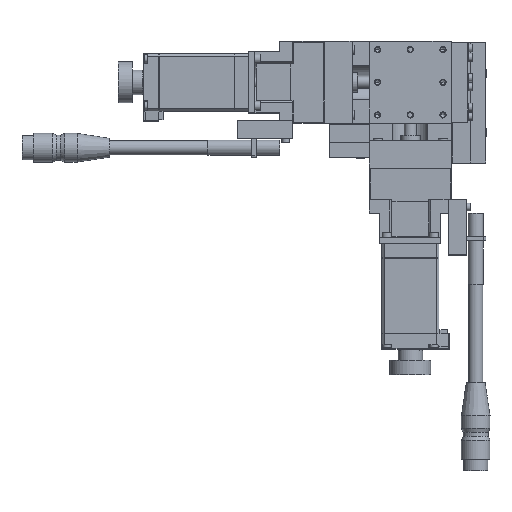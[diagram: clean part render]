
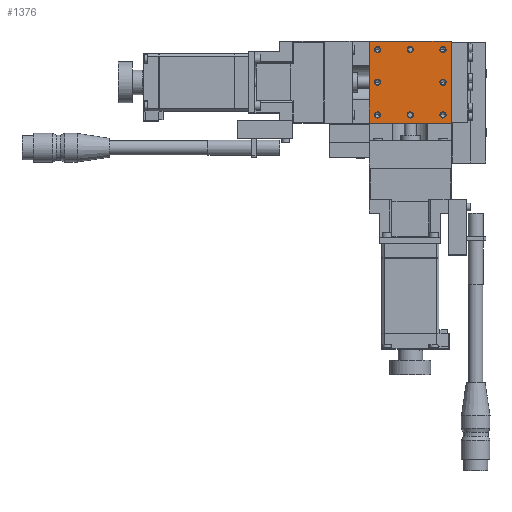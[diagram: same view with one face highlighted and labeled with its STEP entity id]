
A CAD part, top view. The second image highlights one B-rep face of the part: STEP entity #1376.
In plain terms, the highlighted planar face has unit normal (0, 0, 1).
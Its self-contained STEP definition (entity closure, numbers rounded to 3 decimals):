
#1376=ADVANCED_FACE('',(#3703,#3704,#3705,#3706,#3707,#3708,#3709,#3710,#3711),#3712,.F.);
#3703=FACE_BOUND('',#6810,.T.);
#3704=FACE_BOUND('',#6811,.T.);
#3705=FACE_BOUND('',#6812,.T.);
#3706=FACE_BOUND('',#6813,.T.);
#3707=FACE_BOUND('',#6814,.T.);
#3708=FACE_BOUND('',#6815,.T.);
#3709=FACE_BOUND('',#6816,.T.);
#3710=FACE_BOUND('',#6817,.T.);
#3711=FACE_OUTER_BOUND('',#6818,.T.);
#3712=PLANE('',#6819);
#6810=EDGE_LOOP('',(#14442,#14443));
#6811=EDGE_LOOP('',(#14444,#14445));
#6812=EDGE_LOOP('',(#14446,#14447));
#6813=EDGE_LOOP('',(#14448,#14449));
#6814=EDGE_LOOP('',(#14450,#14451));
#6815=EDGE_LOOP('',(#14452,#14453));
#6816=EDGE_LOOP('',(#14454,#14455));
#6817=EDGE_LOOP('',(#14456,#14457));
#6818=EDGE_LOOP('',(#14458,#14459,#14460,#14461));
#6819=AXIS2_PLACEMENT_3D('',#14462,#14463,#14464);
#14442=ORIENTED_EDGE('',*,*,#21834,.T.);
#14443=ORIENTED_EDGE('',*,*,#21657,.T.);
#14444=ORIENTED_EDGE('',*,*,#21835,.T.);
#14445=ORIENTED_EDGE('',*,*,#21719,.T.);
#14446=ORIENTED_EDGE('',*,*,#21836,.T.);
#14447=ORIENTED_EDGE('',*,*,#21668,.T.);
#14448=ORIENTED_EDGE('',*,*,#21770,.T.);
#14449=ORIENTED_EDGE('',*,*,#21769,.T.);
#14450=ORIENTED_EDGE('',*,*,#21837,.T.);
#14451=ORIENTED_EDGE('',*,*,#21678,.T.);
#14452=ORIENTED_EDGE('',*,*,#21832,.T.);
#14453=ORIENTED_EDGE('',*,*,#21741,.T.);
#14454=ORIENTED_EDGE('',*,*,#21791,.T.);
#14455=ORIENTED_EDGE('',*,*,#21750,.T.);
#14456=ORIENTED_EDGE('',*,*,#21838,.T.);
#14457=ORIENTED_EDGE('',*,*,#21682,.T.);
#14458=ORIENTED_EDGE('',*,*,#21807,.T.);
#14459=ORIENTED_EDGE('',*,*,#21839,.F.);
#14460=ORIENTED_EDGE('',*,*,#21840,.F.);
#14461=ORIENTED_EDGE('',*,*,#21841,.T.);
#14462=CARTESIAN_POINT('',(20.,-20.,40.));
#14463=DIRECTION('',(0.,0.,-1.0));
#14464=DIRECTION('',(1.0,0.,0.));
#21657=EDGE_CURVE('',#26383,#26387,#26389,.T.);
#21668=EDGE_CURVE('',#26406,#26408,#26410,.T.);
#21678=EDGE_CURVE('',#26424,#26428,#26430,.T.);
#21682=EDGE_CURVE('',#26432,#26436,#26438,.T.);
#21719=EDGE_CURVE('',#26501,#26505,#26507,.T.);
#21741=EDGE_CURVE('',#26538,#26540,#26542,.T.);
#21750=EDGE_CURVE('',#26552,#26554,#26556,.T.);
#21769=EDGE_CURVE('',#26587,#26589,#26591,.T.);
#21770=EDGE_CURVE('',#26589,#26587,#26592,.T.);
#21791=EDGE_CURVE('',#26554,#26552,#26625,.T.);
#21807=EDGE_CURVE('',#26653,#26651,#26654,.T.);
#21832=EDGE_CURVE('',#26540,#26538,#26695,.T.);
#21834=EDGE_CURVE('',#26387,#26383,#26697,.T.);
#21835=EDGE_CURVE('',#26505,#26501,#26698,.T.);
#21836=EDGE_CURVE('',#26408,#26406,#26699,.T.);
#21837=EDGE_CURVE('',#26428,#26424,#26700,.T.);
#21838=EDGE_CURVE('',#26436,#26432,#26701,.T.);
#21839=EDGE_CURVE('',#26702,#26651,#26703,.T.);
#21840=EDGE_CURVE('',#26704,#26702,#26705,.T.);
#21841=EDGE_CURVE('',#26704,#26653,#26706,.T.);
#26383=VERTEX_POINT('',#33739);
#26387=VERTEX_POINT('',#33744);
#26389=CIRCLE('',#33747,1.5);
#26406=VERTEX_POINT('',#33768);
#26408=VERTEX_POINT('',#33771);
#26410=CIRCLE('',#33774,1.5);
#26424=VERTEX_POINT('',#33790);
#26428=VERTEX_POINT('',#33795);
#26430=CIRCLE('',#33798,1.5);
#26432=VERTEX_POINT('',#33800);
#26436=VERTEX_POINT('',#33805);
#26438=CIRCLE('',#33808,1.5);
#26501=VERTEX_POINT('',#33889);
#26505=VERTEX_POINT('',#33894);
#26507=CIRCLE('',#33897,1.5);
#26538=VERTEX_POINT('',#33938);
#26540=VERTEX_POINT('',#33941);
#26542=CIRCLE('',#33944,1.5);
#26552=VERTEX_POINT('',#33958);
#26554=VERTEX_POINT('',#33961);
#26556=CIRCLE('',#33964,1.5);
#26587=VERTEX_POINT('',#34003);
#26589=VERTEX_POINT('',#34006);
#26591=CIRCLE('',#34009,1.5);
#26592=CIRCLE('',#34010,1.5);
#26625=CIRCLE('',#34055,1.5);
#26651=VERTEX_POINT('',#34091);
#26653=VERTEX_POINT('',#34094);
#26654=LINE('',#34095,#34096);
#26695=CIRCLE('',#34157,1.5);
#26697=CIRCLE('',#34159,1.5);
#26698=CIRCLE('',#34160,1.5);
#26699=CIRCLE('',#34161,1.5);
#26700=CIRCLE('',#34162,1.5);
#26701=CIRCLE('',#34163,1.5);
#26702=VERTEX_POINT('',#34164);
#26703=LINE('',#34165,#34166);
#26704=VERTEX_POINT('',#34167);
#26705=LINE('',#34168,#34169);
#26706=LINE('',#34170,#34171);
#33739=CARTESIAN_POINT('',(14.5,-16.,40.));
#33744=CARTESIAN_POINT('',(17.5,-16.,40.));
#33747=AXIS2_PLACEMENT_3D('',#41059,#41060,#41061);
#33768=CARTESIAN_POINT('',(14.5,16.,40.));
#33771=CARTESIAN_POINT('',(17.5,16.,40.));
#33774=AXIS2_PLACEMENT_3D('',#41080,#41081,#41082);
#33790=CARTESIAN_POINT('',(-1.5,16.,40.));
#33795=CARTESIAN_POINT('',(1.5,16.,40.));
#33798=AXIS2_PLACEMENT_3D('',#41102,#41103,#41104);
#33800=CARTESIAN_POINT('',(-17.5,16.,40.));
#33805=CARTESIAN_POINT('',(-14.5,16.,40.));
#33808=AXIS2_PLACEMENT_3D('',#41110,#41111,#41112);
#33889=CARTESIAN_POINT('',(14.5,0.,40.));
#33894=CARTESIAN_POINT('',(17.5,0.,40.));
#33897=AXIS2_PLACEMENT_3D('',#41181,#41182,#41183);
#33938=CARTESIAN_POINT('',(-17.5,-16.,40.));
#33941=CARTESIAN_POINT('',(-14.5,-16.,40.));
#33944=AXIS2_PLACEMENT_3D('',#41223,#41224,#41225);
#33958=CARTESIAN_POINT('',(-17.5,0.,40.));
#33961=CARTESIAN_POINT('',(-14.5,0.,40.));
#33964=AXIS2_PLACEMENT_3D('',#41238,#41239,#41240);
#34003=CARTESIAN_POINT('',(-1.5,-16.,40.));
#34006=CARTESIAN_POINT('',(1.5,-16.,40.));
#34009=AXIS2_PLACEMENT_3D('',#41275,#41276,#41277);
#34010=AXIS2_PLACEMENT_3D('',#41278,#41279,#41280);
#34055=AXIS2_PLACEMENT_3D('',#41317,#41318,#41319);
#34091=CARTESIAN_POINT('',(-20.,20.,40.));
#34094=CARTESIAN_POINT('',(20.,20.,40.));
#34095=CARTESIAN_POINT('',(20.,20.,40.));
#34096=VECTOR('',#41343,1000.0);
#34157=AXIS2_PLACEMENT_3D('',#41376,#41377,#41378);
#34159=AXIS2_PLACEMENT_3D('',#41382,#41383,#41384);
#34160=AXIS2_PLACEMENT_3D('',#41385,#41386,#41387);
#34161=AXIS2_PLACEMENT_3D('',#41388,#41389,#41390);
#34162=AXIS2_PLACEMENT_3D('',#41391,#41392,#41393);
#34163=AXIS2_PLACEMENT_3D('',#41394,#41395,#41396);
#34164=CARTESIAN_POINT('',(-20.,-20.,40.));
#34165=CARTESIAN_POINT('',(-20.,-20.,40.));
#34166=VECTOR('',#41397,1000.0);
#34167=CARTESIAN_POINT('',(20.,-20.,40.));
#34168=CARTESIAN_POINT('',(20.,-20.,40.));
#34169=VECTOR('',#41398,1000.0);
#34170=CARTESIAN_POINT('',(20.,-20.,40.));
#34171=VECTOR('',#41399,1000.0);
#41059=CARTESIAN_POINT('',(16.,-16.,40.));
#41060=DIRECTION('',(0.,0.,-1.0));
#41061=DIRECTION('',(1.0,0.,0.));
#41080=CARTESIAN_POINT('',(16.,16.,40.));
#41081=DIRECTION('',(0.,0.,-1.0));
#41082=DIRECTION('',(1.0,0.,0.));
#41102=CARTESIAN_POINT('',(0.,16.0,40.));
#41103=DIRECTION('',(0.,0.,-1.0));
#41104=DIRECTION('',(1.0,0.,0.));
#41110=CARTESIAN_POINT('',(-16.,16.,40.));
#41111=DIRECTION('',(0.,0.,-1.0));
#41112=DIRECTION('',(1.0,0.,0.));
#41181=CARTESIAN_POINT('',(16.,0.,40.));
#41182=DIRECTION('',(0.,0.,-1.0));
#41183=DIRECTION('',(1.0,0.,0.));
#41223=CARTESIAN_POINT('',(-16.,-16.,40.));
#41224=DIRECTION('',(0.,0.,-1.0));
#41225=DIRECTION('',(1.0,0.,0.));
#41238=CARTESIAN_POINT('',(-16.,0.,40.));
#41239=DIRECTION('',(0.,0.,-1.0));
#41240=DIRECTION('',(1.0,0.,0.));
#41275=CARTESIAN_POINT('',(0.,-16.0,40.));
#41276=DIRECTION('',(0.,0.,-1.0));
#41277=DIRECTION('',(1.0,0.,0.));
#41278=CARTESIAN_POINT('',(0.,-16.0,40.));
#41279=DIRECTION('',(0.,0.,-1.0));
#41280=DIRECTION('',(1.0,0.,0.));
#41317=CARTESIAN_POINT('',(-16.,0.,40.));
#41318=DIRECTION('',(0.,0.,-1.0));
#41319=DIRECTION('',(1.0,0.,0.));
#41343=DIRECTION('',(-1.0,0.,0.));
#41376=CARTESIAN_POINT('',(-16.,-16.,40.));
#41377=DIRECTION('',(0.,0.,-1.0));
#41378=DIRECTION('',(1.0,0.,0.));
#41382=CARTESIAN_POINT('',(16.,-16.,40.));
#41383=DIRECTION('',(0.,0.,-1.0));
#41384=DIRECTION('',(1.0,0.,0.));
#41385=CARTESIAN_POINT('',(16.,0.,40.));
#41386=DIRECTION('',(0.,0.,-1.0));
#41387=DIRECTION('',(1.0,0.,0.));
#41388=CARTESIAN_POINT('',(16.,16.,40.));
#41389=DIRECTION('',(0.,0.,-1.0));
#41390=DIRECTION('',(1.0,0.,0.));
#41391=CARTESIAN_POINT('',(0.,16.0,40.));
#41392=DIRECTION('',(0.,0.,-1.0));
#41393=DIRECTION('',(1.0,0.,0.));
#41394=CARTESIAN_POINT('',(-16.,16.,40.));
#41395=DIRECTION('',(0.,0.,-1.0));
#41396=DIRECTION('',(1.0,0.,0.));
#41397=DIRECTION('',(0.,1.0,0.0));
#41398=DIRECTION('',(-1.0,0.,0.));
#41399=DIRECTION('',(0.,1.0,0.0));
